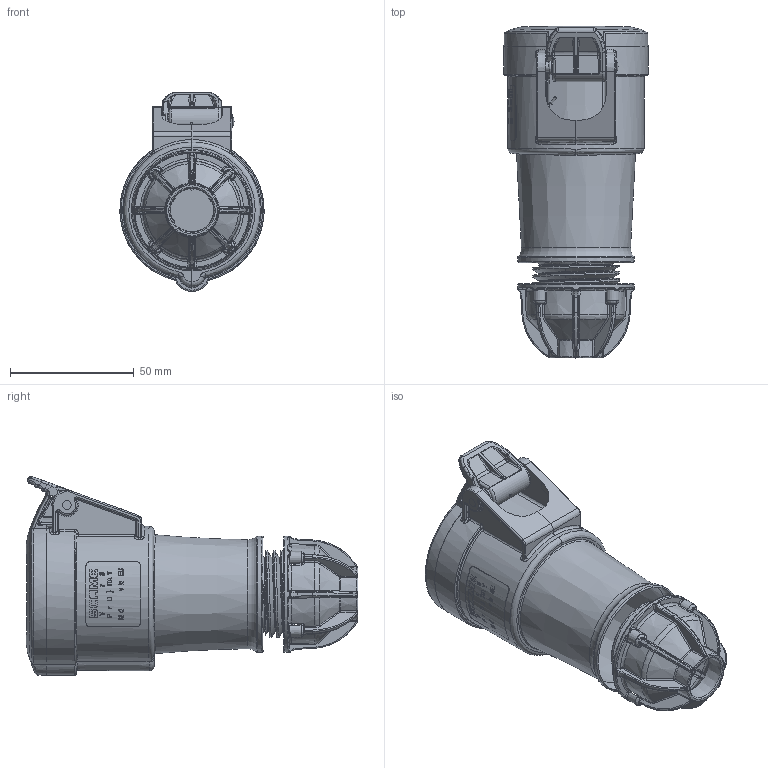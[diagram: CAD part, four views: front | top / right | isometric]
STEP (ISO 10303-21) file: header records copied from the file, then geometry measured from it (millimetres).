
FILE_DESCRIPTION(/* description */ (''),/* implementation_level */ '2;1');
FILE_NAME(/* name */ '4002621.stp',/* time_stamp */ '2017-05-26T08:04:45+02:00',/* author */ (''),/* organization */ (''),/* preprocessor_version */ 'ST-DEVELOPER v16',/* originating_system */ 'SIEMENS PLM Software NX 11.0',/* authorisation */ '');
FILE_SCHEMA (('AUTOMOTIVE_DESIGN { 1 0 10303 214 3 1 1 1 }'));
Length unit declared in the file: millimetre
Products named in the file (1): 4002621_LINKEDEXT_jt
Bounding box: 58.2 x 134 x 80.3 mm (x, y, z)
Surface area: 34286.1 mm2 (no closed solid volume)
Topology: 0 solids, 45 shells, 732 faces, 2393 edges, 1599 vertices
Faces by surface type: bspline 454, cylinder 124, plane 74, cone 50, torus 24, sphere 4, revolution 2
Full cylindrical faces by diameter (mm): 0.998 x3, 4 x1, 29.793 x5, 47 x1
Entity records: 63102 total; most frequent: CARTESIAN_POINT 42790, ORIENTED_EDGE 3713, EDGE_CURVE 2344, DIRECTION 2033, VERTEX_POINT 1579, B_SPLINE_CURVE_WITH_KNOTS 1450, AXIS2_PLACEMENT_3D 863, EDGE_LOOP 749
